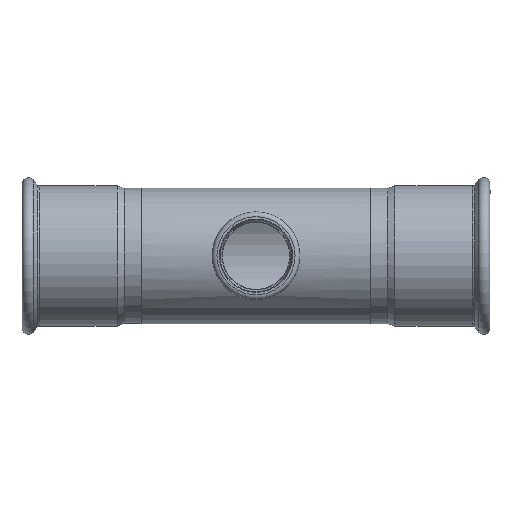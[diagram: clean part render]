
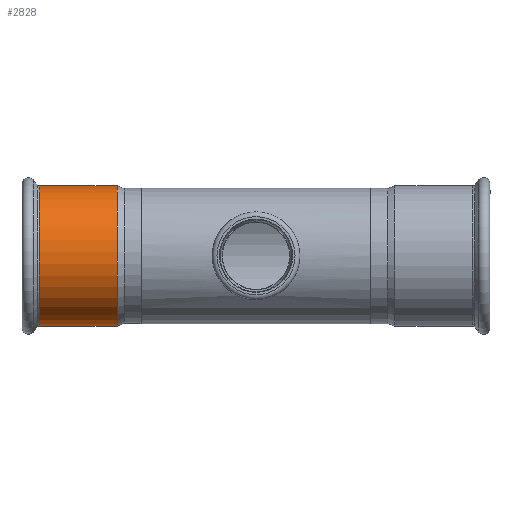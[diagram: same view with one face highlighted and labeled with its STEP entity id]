
A CAD part, top view. The second image highlights one B-rep face of the part: STEP entity #2828.
In plain terms, the highlighted cylindrical face has radius 87.25 mm (diameter 174.5 mm), a full revolution.
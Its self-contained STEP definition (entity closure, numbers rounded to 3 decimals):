
#2794=CARTESIAN_POINT('',(-126.439,87.25,0.0));
#2795=VERTEX_POINT('',#2794);
#2796=CARTESIAN_POINT('',(-126.439,0.0,0.0));
#2797=DIRECTION('',(1.0,0.0,0.0));
#2798=DIRECTION('',(0.0,1.0,0.0));
#2799=AXIS2_PLACEMENT_3D('',#2796,#2797,#2798);
#2800=CIRCLE('',#2799,87.25);
#2801=EDGE_CURVE('',#2795,#2795,#2800,.T.);
#2809=CARTESIAN_POINT('',(-77.99,0.0,0.0));
#2810=DIRECTION('',(1.0,0.0,0.0));
#2811=DIRECTION('',(0.0,1.0,0.0));
#2812=AXIS2_PLACEMENT_3D('',#2809,#2810,#2811);
#2813=CYLINDRICAL_SURFACE('',#2812,87.25);
#2814=CARTESIAN_POINT('',(-29.542,87.25,0.0));
#2815=VERTEX_POINT('',#2814);
#2816=CARTESIAN_POINT('',(-29.542,0.0,0.0));
#2817=DIRECTION('',(1.0,0.0,0.0));
#2818=DIRECTION('',(0.0,1.0,0.0));
#2819=AXIS2_PLACEMENT_3D('',#2816,#2817,#2818);
#2820=CIRCLE('',#2819,87.25);
#2821=EDGE_CURVE('',#2815,#2815,#2820,.T.);
#2822=ORIENTED_EDGE('',*,*,#2821,.F.);
#2823=EDGE_LOOP('',(#2822));
#2824=FACE_OUTER_BOUND('',#2823,.T.);
#2825=ORIENTED_EDGE('',*,*,#2801,.T.);
#2826=EDGE_LOOP('',(#2825));
#2827=FACE_BOUND('',#2826,.T.);
#2828=ADVANCED_FACE('',(#2824,#2827),#2813,.T.);
